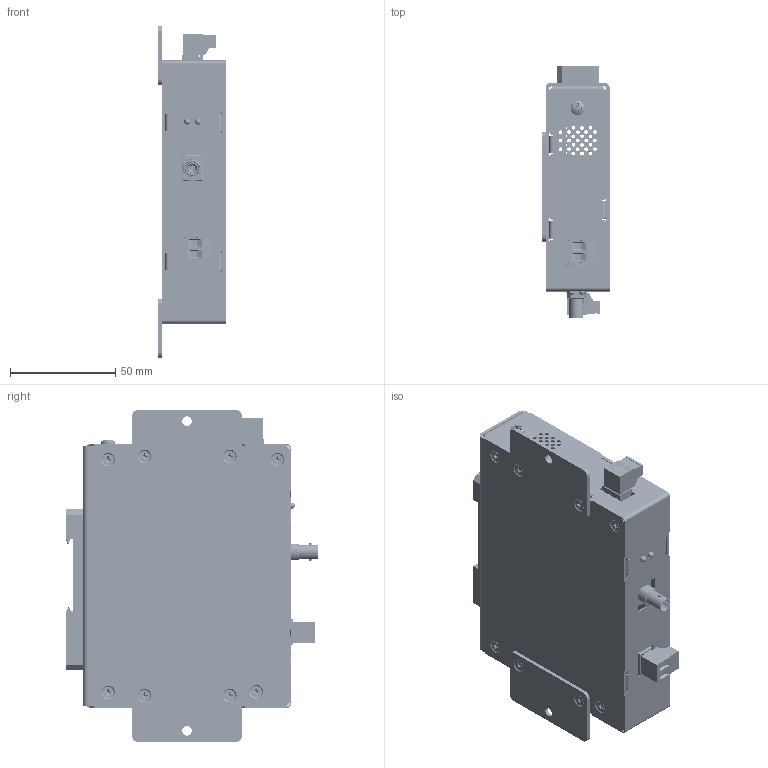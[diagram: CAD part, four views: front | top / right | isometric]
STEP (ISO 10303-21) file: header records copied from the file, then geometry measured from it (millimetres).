
FILE_DESCRIPTION(/* description */ ('STEP AP242','CAx-IF Rec.Pracs.---Representation and Presentation of Product Manufacturing Information (PMI)---4.0---2014-10-13','CAx-IF Rec.Pracs.---3D Tessellated Geometry---0.4---2014-09-14','2;1'),/* implementation_level */ '2;1');
FILE_NAME(/* name */ '6198477063b8cd2c17718b8e',/* time_stamp */ '2021-11-20T00:55:15+00:00',/* author */ (''),/* organization */ (''),/* preprocessor_version */ 'ST-DEVELOPER v18.1',/* originating_system */ ' ',/* authorisation */ ' ');
FILE_SCHEMA (('AP242_MANAGED_MODEL_BASED_3D_ENGINEERING_MIM_LF { 1 0 10303 442 1 1 4 }'));
Products named in the file (25): CD-397 - 1CD-XX-1 -Transmitter-Wall Rev D; 96640A334_Black-Oxide 18-8 Stainless Steel Phillips Flat Head Screws; PRODUCT_NAME_1; Part 1; 96640A115_Black-Oxide 18-8 Stainless Steel Phillips Flat Head Screws; 91772A144_Passivated 18-8 Stainless Steel Pan Head Phillips Screw; DINM12-RC-Assy <1>; DINM12-RC; Spring clip; spring^DINM12-RC-Assy; H-105 Rear Housing <1>; 95185A130_Zinc-Plated Steel Press-Fit Nut for Sheet Metal; H-128-T - SINGLE CONTACT CLOSURE DIN FRONT COVER Rev D <1>; PCB-1CD-XX-1 -Transmitter <1>; C-796634-2; HFBR-x41xTxZ; C-796638-2
Assembly tree (59 placements, depth 3):
  CD-397 - 1CD-XX-1 -Transmitter-Wall Rev D
    96640A334_Black-Oxide 18-8 Stainless Steel Phillips Flat Head Screws  x14
    PRODUCT_NAME_1  x4
    Part 1  x2
    96640A115_Black-Oxide 18-8 Stainless Steel Phillips Flat Head Screws  x3
    91772A144_Passivated 18-8 Stainless Steel Pan Head Phillips Screw
    DINM12-RC-Assy <1>
      DINM12-RC
      Spring clip
      spring^DINM12-RC-Assy
      spring^DINM12-RC-Assy
    H-105 Rear Housing <1>
      95185A130_Zinc-Plated Steel Press-Fit Nut for Sheet Metal  x3
      Part 1
    H-128-T - SINGLE CONTACT CLOSURE DIN FRONT COVER Rev D <1>
      PRODUCT_NAME_1  x10
      Part 1
      PRODUCT_NAME_1
    PCB-1CD-XX-1 -Transmitter <1>
      Part 1  x4
      C-796634-2  x2
      HFBR-x41xTxZ
      Part 1
      C-796638-2  x2
      Part 1
Bounding box: 32.1 x 120.01 x 157.99 mm (x, y, z)
Volume: 89133.2 mm3; surface area: 123285.4 mm2
Topology: 54 solids, 55 shells, 3453 faces, 10151 edges, 6963 vertices
Faces by surface type: plane 2139, cylinder 931, cone 205, bspline 96, torus 57, sphere 25
Full cylindrical faces by diameter (mm): 0.46 x4, 0.5 x1, 0.9 x4, 1.5 x2, 1.905 x143, 2.156 x14, 2.5 x1, 2.647 x1, 2.845 x112, 2.9 x2, 3.251 x18, 3.505 x24, 3.556 x2, 4 x7, 4.089 x4, 4.191 x10, 4.216 x14, 4.5 x1, 4.572 x2, 4.724 x1, 4.75 x1, 4.763 x3, 4.826 x3, 4.889 x10, 5.41 x8, 5.563 x13, 5.588 x10, 5.8 x1, 6.401 x1, 6.858 x1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
Entity records: 71807 total; most frequent: CARTESIAN_POINT 20578, ORIENTED_EDGE 9722, DIRECTION 9512, EDGE_CURVE 4863, VERTEX_POINT 3380, AXIS2_PLACEMENT_3D 3233, LINE 3046, VECTOR 3046
